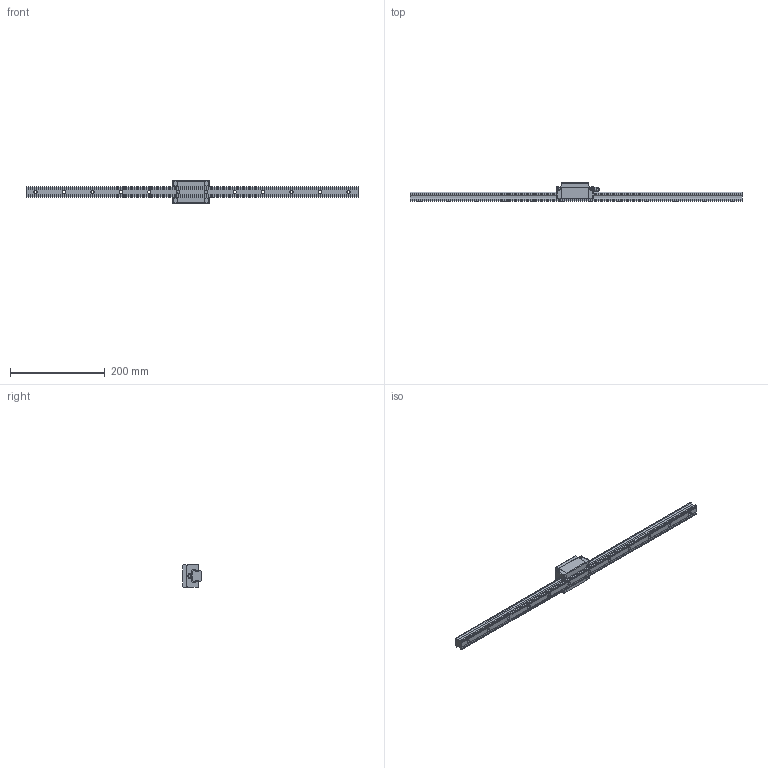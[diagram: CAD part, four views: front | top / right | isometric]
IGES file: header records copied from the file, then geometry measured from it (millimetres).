
Start section: SolidWorks IGES file using analytic representation for surfaces
Global section: file name: C:\Users\tsuch\OneDrive\デスクトップ\EG25関連修正(3D)\EGH25.IGS; native system: SolidWorks 2019; preprocessor: SolidWorks 2019; author: tsuch; date: 210706.144420; units: millimetre
Bounding box: 700 x 40 x 48 mm (x, y, z)
Surface area: 93128.3 mm2 (no closed solid volume)
Topology: 0 solids, 0 shells, 524 faces, 5795 edges, 5787 vertices
Faces by surface type: bspline 324, revolution 200
